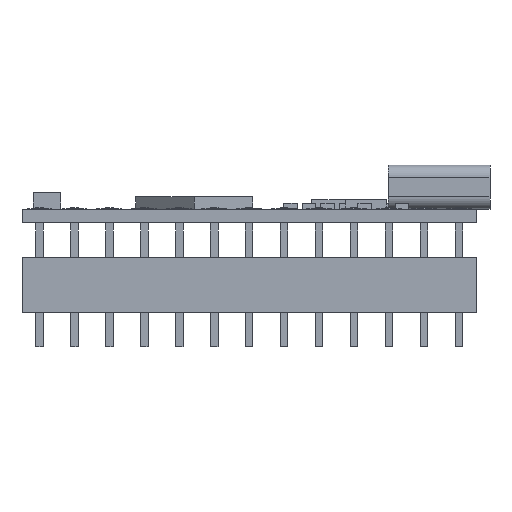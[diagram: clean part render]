
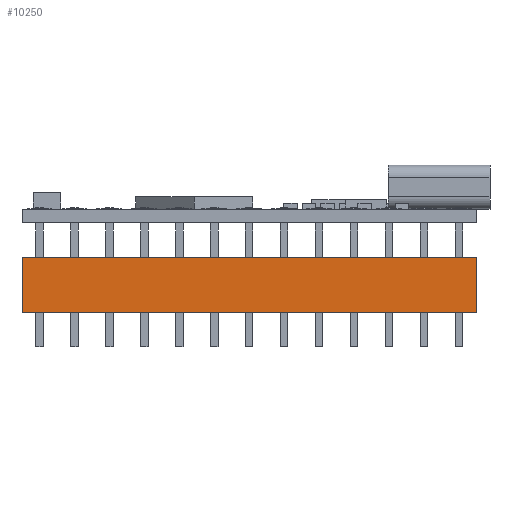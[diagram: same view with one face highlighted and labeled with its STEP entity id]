
A CAD part, left-side view. The second image highlights one B-rep face of the part: STEP entity #10250.
In plain terms, the highlighted planar face has unit normal (-1, 0, 0).
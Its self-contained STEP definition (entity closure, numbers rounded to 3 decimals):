
#10250 = ADVANCED_FACE('',(#10251),#10265,.F.);
#10251 = FACE_BOUND('',#10252,.F.);
#10252 = EDGE_LOOP('',(#10253,#10288,#10316,#10344));
#10253 = ORIENTED_EDGE('',*,*,#10254,.F.);
#10254 = EDGE_CURVE('',#10255,#10257,#10259,.T.);
#10255 = VERTEX_POINT('',#10256);
#10256 = CARTESIAN_POINT('',(-8.87,-16.51,0.));
#10257 = VERTEX_POINT('',#10258);
#10258 = CARTESIAN_POINT('',(-8.87,-16.51,4.));
#10259 = SURFACE_CURVE('',#10260,(#10264,#10276),.PCURVE_S1.);
#10260 = LINE('',#10261,#10262);
#10261 = CARTESIAN_POINT('',(-8.87,-16.51,0.));
#10262 = VECTOR('',#10263,1.);
#10263 = DIRECTION('',(0.,0.,1.));
#10264 = PCURVE('',#10265,#10270);
#10265 = PLANE('',#10266);
#10266 = AXIS2_PLACEMENT_3D('',#10267,#10268,#10269);
#10267 = CARTESIAN_POINT('',(-8.87,-16.51,0.));
#10268 = DIRECTION('',(1.,0.,0.));
#10269 = DIRECTION('',(0.,0.,1.));
#10270 = DEFINITIONAL_REPRESENTATION('',(#10271),#10275);
#10271 = LINE('',#10272,#10273);
#10272 = CARTESIAN_POINT('',(0.,0.));
#10273 = VECTOR('',#10274,1.);
#10274 = DIRECTION('',(1.,0.));
#10275 = ( GEOMETRIC_REPRESENTATION_CONTEXT(2) 
PARAMETRIC_REPRESENTATION_CONTEXT() REPRESENTATION_CONTEXT('2D SPACE',''
  ) );
#10276 = PCURVE('',#10277,#10282);
#10277 = PLANE('',#10278);
#10278 = AXIS2_PLACEMENT_3D('',#10279,#10280,#10281);
#10279 = CARTESIAN_POINT('',(-8.87,-16.51,0.));
#10280 = DIRECTION('',(0.,1.,0.));
#10281 = DIRECTION('',(0.,0.,1.));
#10282 = DEFINITIONAL_REPRESENTATION('',(#10283),#10287);
#10283 = LINE('',#10284,#10285);
#10284 = CARTESIAN_POINT('',(0.,0.));
#10285 = VECTOR('',#10286,1.);
#10286 = DIRECTION('',(1.,0.));
#10287 = ( GEOMETRIC_REPRESENTATION_CONTEXT(2) 
PARAMETRIC_REPRESENTATION_CONTEXT() REPRESENTATION_CONTEXT('2D SPACE',''
  ) );
#10288 = ORIENTED_EDGE('',*,*,#10289,.T.);
#10289 = EDGE_CURVE('',#10255,#10290,#10292,.T.);
#10290 = VERTEX_POINT('',#10291);
#10291 = CARTESIAN_POINT('',(-8.87,16.51,0.));
#10292 = SURFACE_CURVE('',#10293,(#10297,#10304),.PCURVE_S1.);
#10293 = LINE('',#10294,#10295);
#10294 = CARTESIAN_POINT('',(-8.87,-16.51,0.));
#10295 = VECTOR('',#10296,1.);
#10296 = DIRECTION('',(0.,1.,0.));
#10297 = PCURVE('',#10265,#10298);
#10298 = DEFINITIONAL_REPRESENTATION('',(#10299),#10303);
#10299 = LINE('',#10300,#10301);
#10300 = CARTESIAN_POINT('',(0.,0.));
#10301 = VECTOR('',#10302,1.);
#10302 = DIRECTION('',(0.,-1.));
#10303 = ( GEOMETRIC_REPRESENTATION_CONTEXT(2) 
PARAMETRIC_REPRESENTATION_CONTEXT() REPRESENTATION_CONTEXT('2D SPACE',''
  ) );
#10304 = PCURVE('',#10305,#10310);
#10305 = PLANE('',#10306);
#10306 = AXIS2_PLACEMENT_3D('',#10307,#10308,#10309);
#10307 = CARTESIAN_POINT('',(-8.87,-16.51,0.));
#10308 = DIRECTION('',(0.,0.,1.));
#10309 = DIRECTION('',(1.,0.,0.));
#10310 = DEFINITIONAL_REPRESENTATION('',(#10311),#10315);
#10311 = LINE('',#10312,#10313);
#10312 = CARTESIAN_POINT('',(0.,0.));
#10313 = VECTOR('',#10314,1.);
#10314 = DIRECTION('',(0.,1.));
#10315 = ( GEOMETRIC_REPRESENTATION_CONTEXT(2) 
PARAMETRIC_REPRESENTATION_CONTEXT() REPRESENTATION_CONTEXT('2D SPACE',''
  ) );
#10316 = ORIENTED_EDGE('',*,*,#10317,.T.);
#10317 = EDGE_CURVE('',#10290,#10318,#10320,.T.);
#10318 = VERTEX_POINT('',#10319);
#10319 = CARTESIAN_POINT('',(-8.87,16.51,4.));
#10320 = SURFACE_CURVE('',#10321,(#10325,#10332),.PCURVE_S1.);
#10321 = LINE('',#10322,#10323);
#10322 = CARTESIAN_POINT('',(-8.87,16.51,0.));
#10323 = VECTOR('',#10324,1.);
#10324 = DIRECTION('',(0.,0.,1.));
#10325 = PCURVE('',#10265,#10326);
#10326 = DEFINITIONAL_REPRESENTATION('',(#10327),#10331);
#10327 = LINE('',#10328,#10329);
#10328 = CARTESIAN_POINT('',(0.,-33.02));
#10329 = VECTOR('',#10330,1.);
#10330 = DIRECTION('',(1.,0.));
#10331 = ( GEOMETRIC_REPRESENTATION_CONTEXT(2) 
PARAMETRIC_REPRESENTATION_CONTEXT() REPRESENTATION_CONTEXT('2D SPACE',''
  ) );
#10332 = PCURVE('',#10333,#10338);
#10333 = PLANE('',#10334);
#10334 = AXIS2_PLACEMENT_3D('',#10335,#10336,#10337);
#10335 = CARTESIAN_POINT('',(-8.87,16.51,0.));
#10336 = DIRECTION('',(0.,1.,0.));
#10337 = DIRECTION('',(0.,0.,1.));
#10338 = DEFINITIONAL_REPRESENTATION('',(#10339),#10343);
#10339 = LINE('',#10340,#10341);
#10340 = CARTESIAN_POINT('',(0.,0.));
#10341 = VECTOR('',#10342,1.);
#10342 = DIRECTION('',(1.,0.));
#10343 = ( GEOMETRIC_REPRESENTATION_CONTEXT(2) 
PARAMETRIC_REPRESENTATION_CONTEXT() REPRESENTATION_CONTEXT('2D SPACE',''
  ) );
#10344 = ORIENTED_EDGE('',*,*,#10345,.F.);
#10345 = EDGE_CURVE('',#10257,#10318,#10346,.T.);
#10346 = SURFACE_CURVE('',#10347,(#10351,#10358),.PCURVE_S1.);
#10347 = LINE('',#10348,#10349);
#10348 = CARTESIAN_POINT('',(-8.87,-16.51,4.));
#10349 = VECTOR('',#10350,1.);
#10350 = DIRECTION('',(0.,1.,0.));
#10351 = PCURVE('',#10265,#10352);
#10352 = DEFINITIONAL_REPRESENTATION('',(#10353),#10357);
#10353 = LINE('',#10354,#10355);
#10354 = CARTESIAN_POINT('',(4.,0.));
#10355 = VECTOR('',#10356,1.);
#10356 = DIRECTION('',(0.,-1.));
#10357 = ( GEOMETRIC_REPRESENTATION_CONTEXT(2) 
PARAMETRIC_REPRESENTATION_CONTEXT() REPRESENTATION_CONTEXT('2D SPACE',''
  ) );
#10358 = PCURVE('',#10359,#10364);
#10359 = PLANE('',#10360);
#10360 = AXIS2_PLACEMENT_3D('',#10361,#10362,#10363);
#10361 = CARTESIAN_POINT('',(-8.87,-16.51,4.));
#10362 = DIRECTION('',(0.,0.,1.));
#10363 = DIRECTION('',(1.,0.,0.));
#10364 = DEFINITIONAL_REPRESENTATION('',(#10365),#10369);
#10365 = LINE('',#10366,#10367);
#10366 = CARTESIAN_POINT('',(0.,0.));
#10367 = VECTOR('',#10368,1.);
#10368 = DIRECTION('',(0.,1.));
#10369 = ( GEOMETRIC_REPRESENTATION_CONTEXT(2) 
PARAMETRIC_REPRESENTATION_CONTEXT() REPRESENTATION_CONTEXT('2D SPACE',''
  ) );
